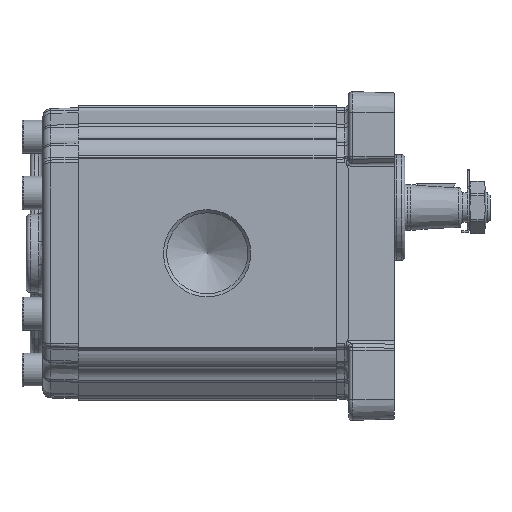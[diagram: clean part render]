
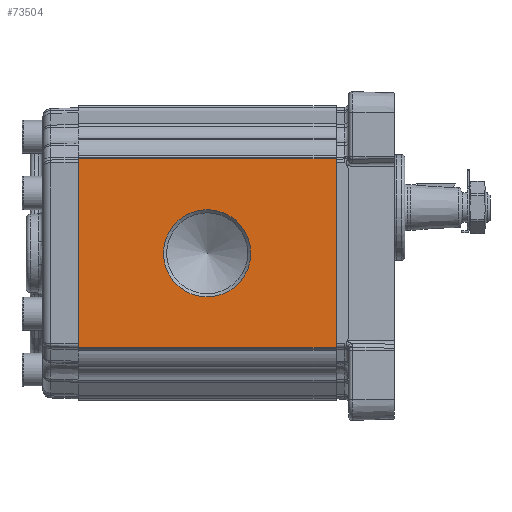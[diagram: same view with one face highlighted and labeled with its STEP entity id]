
A CAD part, left-side view. The second image highlights one B-rep face of the part: STEP entity #73504.
In plain terms, the highlighted planar face has unit normal (-1, 0, 0) as drawn and (1, 0, 0) by its records, which use the part's own axes.
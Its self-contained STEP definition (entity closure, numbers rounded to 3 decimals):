
#2245=LINE('',#112344,#5955);
#2256=LINE('',#112428,#5966);
#2302=LINE('',#112578,#6012);
#2303=LINE('',#112579,#6013);
#5955=VECTOR('',#88503,1000.);
#5966=VECTOR('',#88578,1000.);
#6012=VECTOR('',#88740,1000.);
#6013=VECTOR('',#88741,1000.);
#8292=PLANE('',#77924);
#19825=ORIENTED_EDGE('',*,*,#32875,.T.);
#19826=ORIENTED_EDGE('',*,*,#32754,.F.);
#19827=ORIENTED_EDGE('',*,*,#32876,.T.);
#19828=ORIENTED_EDGE('',*,*,#32796,.F.);
#19829=ORIENTED_EDGE('',*,*,#32877,.T.);
#32754=EDGE_CURVE('',#39907,#39908,#2245,.T.);
#32796=EDGE_CURVE('',#39949,#39950,#2256,.T.);
#32875=EDGE_CURVE('',#39994,#39994,#44357,.F.);
#32876=EDGE_CURVE('',#39907,#39950,#2302,.F.);
#32877=EDGE_CURVE('',#39949,#39908,#2303,.F.);
#39907=VERTEX_POINT('',#112343);
#39908=VERTEX_POINT('',#112345);
#39949=VERTEX_POINT('',#112429);
#39950=VERTEX_POINT('',#112430);
#39994=VERTEX_POINT('',#112577);
#44357=CIRCLE('',#77925,20.976);
#47365=EDGE_LOOP('',(#19825));
#47366=EDGE_LOOP('',(#19826,#19827,#19828,#19829));
#50334=FACE_BOUND('',#47365,.T.);
#50335=FACE_BOUND('',#47366,.T.);
#73504=ADVANCED_FACE('',(#50334,#50335),#8292,.T.);
#77924=AXIS2_PLACEMENT_3D('',#112575,#88736,#88737);
#77925=AXIS2_PLACEMENT_3D('',#112576,#88738,#88739);
#88503=DIRECTION('',(0.,0.,-1.));
#88578=DIRECTION('',(0.,0.,1.));
#88736=DIRECTION('',(1.,0.,0.));
#88737=DIRECTION('',(0.,0.,1.));
#88738=DIRECTION('',(1.,0.,0.));
#88739=DIRECTION('',(0.,0.,1.));
#88740=DIRECTION('',(0.,1.,0.));
#88741=DIRECTION('',(0.,-1.,0.));
#112343=CARTESIAN_POINT('',(57.5,124.,45.5));
#112344=CARTESIAN_POINT('',(57.5,124.,91.388));
#112345=CARTESIAN_POINT('',(57.5,124.,-45.5));
#112428=CARTESIAN_POINT('',(57.5,0.,-44.978));
#112429=CARTESIAN_POINT('',(57.5,0.,-45.5));
#112430=CARTESIAN_POINT('',(57.5,0.,45.5));
#112575=CARTESIAN_POINT('',(57.5,-121.181,91.388));
#112576=CARTESIAN_POINT('',(57.5,62.,0.));
#112577=CARTESIAN_POINT('',(57.5,62.,20.976));
#112578=CARTESIAN_POINT('',(57.5,-121.181,45.5));
#112579=CARTESIAN_POINT('',(57.5,-121.181,-45.5));
